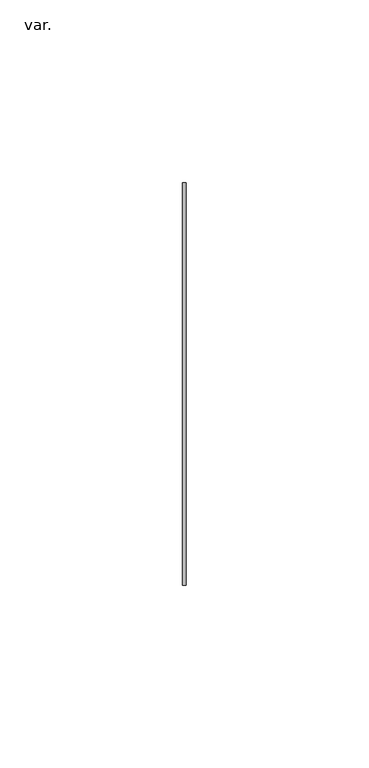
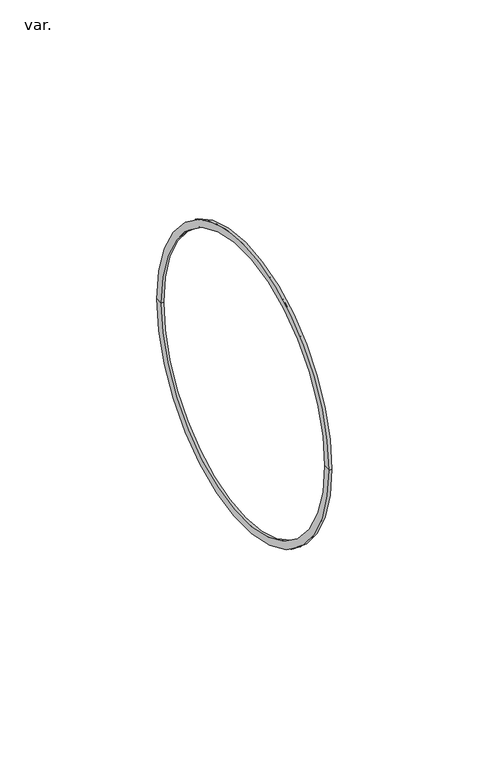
"""IFC4 building model written with IfcOpenShell, lengths in millimetres: pipe fitting geometry, AmancoWavin_Unionesdetubería_SilentiumZNoUsarExtension : var.."""

from ifc_helpers import new_model, si_unit, frame, origin, place, context, project, spatial, polyline, circle_curve, source, transform, mapped, element, save
from ifc_brep_helpers import plane_surface, cylinder_surface, revolved_surface, advanced_brep


def var_0bd1b127(model_context):
    return source(origin(), model_context, "Body", "AdvancedBrep", [
        advanced_brep(
        [(-69.2453589, -55.0, 0.0), (-69.2453589, 55.0, 0.0), (-68.2453589, 55.0, 0.0), (-68.2453589, -55.0, 0.0), (-69.2453589, -52.3, 0.0), (-69.2453589, 52.3, 0.0), (-68.2453589, -52.3, 0.0), (-68.2453589, 52.3, 0.0)],
        [
            (0, 1, circle_curve(frame((-69.2453589, 0.0, 0.0), z_axis=(1.0, 0.0, 0.0), x_axis=(0.0, 1.0, 0.0)), 55.0)),
            (1, 2),
            (2, 3, circle_curve(frame((-68.2453589, 0.0, 0.0), z_axis=(-1.0, 0.0, 0.0), x_axis=(0.0, 1.0, 0.0)), 55.0)),
            (3, 0),
            (1, 0, circle_curve(frame((-69.2453589, 0.0, 0.0), z_axis=(1.0, 0.0, 0.0), x_axis=(0.0, 1.0, 0.0)), 55.0)),
            (3, 2, circle_curve(frame((-68.2453589, 0.0, 0.0), z_axis=(-1.0, 0.0, 0.0), x_axis=(0.0, 1.0, 0.0)), 55.0)),
            (4, 5, circle_curve(frame((-69.2453589, 0.0, 0.0), z_axis=(1.0, 0.0, 0.0), x_axis=(0.0, 1.0, 0.0)), 52.3)),
            (5, 1),
            (0, 4),
            (5, 4, circle_curve(frame((-69.2453589, 0.0, 0.0), z_axis=(1.0, 0.0, 0.0), x_axis=(0.0, 1.0, 0.0)), 52.3)),
            (6, 7, circle_curve(frame((-68.2453589, 0.0, 0.0), z_axis=(1.0, 0.0, 0.0), x_axis=(0.0, 1.0, 0.0)), 52.3)),
            (7, 5),
            (4, 6),
            (7, 6, circle_curve(frame((-68.2453589, 0.0, 0.0), z_axis=(1.0, 0.0, 0.0), x_axis=(0.0, 1.0, 0.0)), 52.3)),
            (2, 7),
            (6, 3),
        ],
        [
            cylinder_surface(frame((-2070.4026442, 0.0, 0.0), z_axis=(-1.0, 0.0, 0.0), x_axis=(0.0, 1.0, 0.0)), 55.0),
            plane_surface(frame((-69.2453589, 0.0, 0.0), z_axis=(-1.0, 0.0, 0.0), x_axis=(0.0, 1.0, 0.0))),
            revolved_surface(polyline([(-69.24535889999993, 52.3, 0.0), (-68.24535889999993, 52.3, 0.0)]), (-2070.4026442, 0.0, 0.0), (-1.0, 0.0, 0.0)),
            plane_surface(frame((-68.2453589, 0.0, 0.0), z_axis=(1.0, 0.0, 0.0), x_axis=(0.0, 1.0, 0.0))),
        ],
        [
            (0, [[1, 2, 3, 4]]),
            (0, [[5, -4, 6, -2]]),
            (1, [[7, 8, -1, 9]]),
            (1, [[10, -9, -5, -8]]),
            (2, [[11, 12, -7, 13]]),
            (2, [[14, -13, -10, -12]]),
            (3, [[-3, 15, -11, 16]]),
            (3, [[-6, -16, -14, -15]]),
        ],
    ),
    ])


if __name__ == "__main__":
    model = new_model("IFC4")
    model_context = context("Model", 3, world=origin())
    ifc_project = project(units=[si_unit("LENGTHUNIT", "METRE", prefix="MILLI")], contexts=[model_context])
    site = spatial("IfcSite", under=ifc_project)
    building = spatial("IfcBuilding", under=site)
    placement = place(None, origin())
    var_shape = var_0bd1b127(model_context)
    element("IfcPipeFitting", 1, ObjectType="AmancoWavin_Unionesdetubería_SilentiumZNoUsarExtension : var.", at=placement, inside=building, context=model_context, shape_type="MappedRepresentation", body=[
        mapped(var_shape, transform((0.0, 0.0, 0.0), x_axis=(1.0, 0.0, 0.0), y_axis=(0.0, 1.0, 0.0), z_axis=(0.0, 0.0, 1.0))),
    ])
    save(model, "model.ifc")
